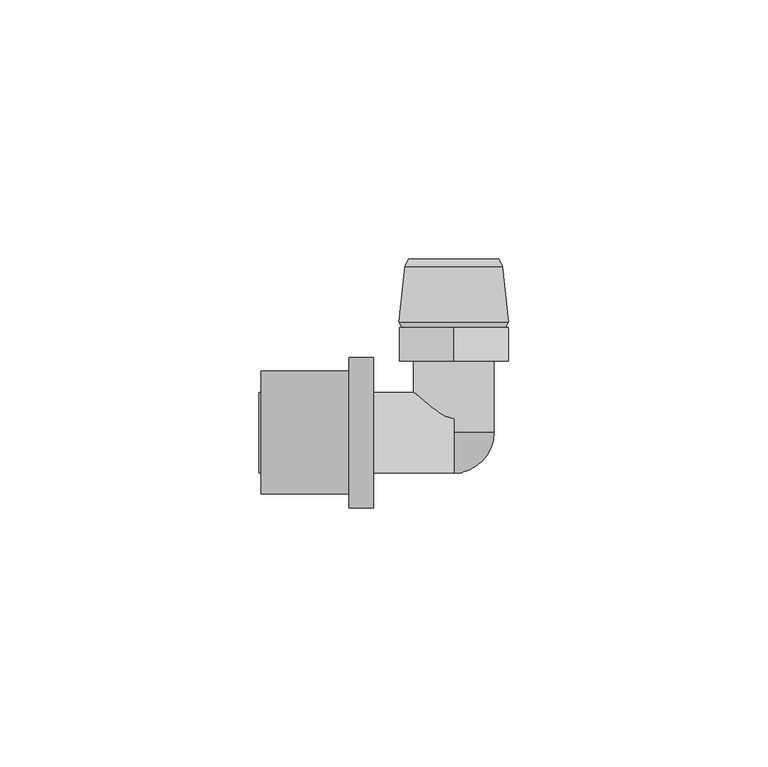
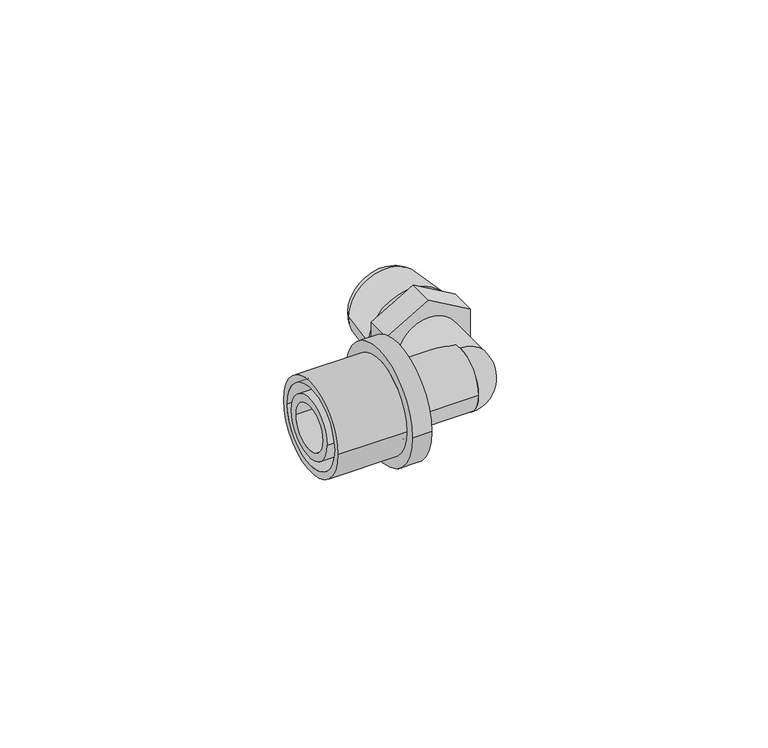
"""IFC4 building model written with IfcOpenShell, lengths in millimetres: pipe fitting geometry, FASTLOC_Elbow with male thread EX+ : FSL A internal AT."""

from ifc_helpers import new_model, si_unit, point, frame, origin, origin_2d, place, context, project, spatial, polyline, circle_curve, ellipse_curve, trimmed, segment, composite_curve, outline, extrude, source, transform, mapped, element, save
from ifc_brep_helpers import plane_surface, cylinder_surface, revolved_surface, advanced_brep


def pipe_fitting_554da5ac(model_context):
    return source(origin(), model_context, "Body", "SolidModel", [
        advanced_brep(
        [(-20.2, -14.5, 0.0), (-20.2, 14.5, 0.0), (-15.5, 14.5, 0.0), (-15.5, -14.5, 0.0), (-37.2, -11.85, 0.0), (-37.2, 11.85, 0.0), (-20.2, 11.85, 0.0), (-20.2, -11.85, 0.0), (-15.5, -10.15, 0.0), (-15.5, 10.15, 0.0), (-37.2, 10.15, 0.0), (-37.2, -10.15, 0.0)],
        [
            (0, 1, circle_curve(frame((-20.2, 0.0, 0.0), z_axis=(1.0, 0.0, 0.0), x_axis=(0.0, 1.0, 0.0)), 14.5)),
            (1, 2),
            (2, 3, circle_curve(frame((-15.5, 0.0, 0.0), z_axis=(-1.0, 0.0, 0.0), x_axis=(0.0, 1.0, 0.0)), 14.5)),
            (3, 0),
            (4, 5, circle_curve(frame((-37.2, 0.0, 0.0), z_axis=(1.0, 0.0, 0.0), x_axis=(0.0, 1.0, 0.0)), 11.85)),
            (5, 6),
            (6, 7, circle_curve(frame((-20.2, 0.0, 0.0), z_axis=(-1.0, 0.0, 0.0), x_axis=(0.0, 1.0, 0.0)), 11.85)),
            (7, 4),
            (8, 9, circle_curve(frame((-15.5, 0.0, 0.0), z_axis=(1.0, 0.0, 0.0), x_axis=(0.0, 1.0, 0.0)), 10.15)),
            (9, 10),
            (10, 11, circle_curve(frame((-37.2, 0.0, 0.0), z_axis=(-1.0, 0.0, 0.0), x_axis=(0.0, 1.0, 0.0)), 10.15)),
            (11, 8),
            (1, 0, circle_curve(frame((-20.2, 0.0, 0.0), z_axis=(1.0, 0.0, 0.0), x_axis=(0.0, -1.0, 0.0)), 14.5)),
            (3, 2, circle_curve(frame((-15.5, 0.0, 0.0), z_axis=(-1.0, 0.0, 0.0), x_axis=(0.0, -1.0, 0.0)), 14.5)),
            (6, 7, circle_curve(frame((-20.2, 0.0, 0.0), z_axis=(1.0, 0.0, 0.0), x_axis=(0.0, -1.0, 0.0)), 11.85)),
            (5, 4, circle_curve(frame((-37.2, 0.0, 0.0), z_axis=(1.0, 0.0, 0.0), x_axis=(0.0, -1.0, 0.0)), 11.85)),
            (10, 11, circle_curve(frame((-37.2, 0.0, 0.0), z_axis=(1.0, 0.0, 0.0), x_axis=(0.0, -1.0, 0.0)), 10.15)),
            (9, 8, circle_curve(frame((-15.5, 0.0, 0.0), z_axis=(1.0, 0.0, 0.0), x_axis=(0.0, -1.0, 0.0)), 10.15)),
        ],
        [
            cylinder_surface(frame((-15.5, 0.0, 0.0), z_axis=(-1.0, 0.0, 0.0), x_axis=(0.0, 1.0, 0.0)), 14.5),
            cylinder_surface(frame((-15.5, 0.0, 0.0), z_axis=(-1.0, 0.0, 0.0), x_axis=(0.0, 1.0, 0.0)), 11.85),
            revolved_surface(polyline([(-37.2, 10.15, 0.0), (-15.5, 10.15, 0.0)]), (-15.5, 0.0, 0.0), (-1.0, 0.0, 0.0)),
            cylinder_surface(frame((-15.5, 0.0, 0.0), z_axis=(-1.0, 0.0, 0.0), x_axis=(0.0, -1.0, 0.0)), 14.5),
            plane_surface(frame((-20.2, 0.0, 0.0), z_axis=(-1.0, 0.0, 0.0), x_axis=(0.0, -1.0, 0.0))),
            cylinder_surface(frame((-15.5, 0.0, 0.0), z_axis=(-1.0, 0.0, 0.0), x_axis=(0.0, -1.0, 0.0)), 11.85),
            plane_surface(frame((-37.2, 0.0, 0.0), z_axis=(-1.0, 0.0, 0.0), x_axis=(0.0, -1.0, 0.0))),
            revolved_surface(polyline([(-37.2, -10.15, 0.0), (-15.5, -10.15, 0.0)]), (-15.5, 0.0, 0.0), (-1.0, 0.0, 0.0)),
            plane_surface(frame((-15.5, 0.0, 0.0), z_axis=(1.0, 0.0, 0.0), x_axis=(0.0, -1.0, 0.0))),
        ],
        [
            (0, [[1, 2, 3, 4]]),
            (1, [[5, 6, 7, 8]]),
            (2, [[9, 10, 11, 12]]),
            (3, [[13, -4, 14, -2]]),
            (4, [[-13, -1], [15, -7]]),
            (5, [[16, -8, -15, -6]]),
            (6, [[-16, -5], [17, -11]]),
            (7, [[18, -12, -17, -10]]),
            (8, [[-14, -3], [-18, -9]]),
        ],
    ),
        advanced_brep(
        [(9.4, 32.0000007, 0.0), (-9.4, 32.0000007, 0.0), (-8.75, 33.5, 0.0), (8.75, 33.5, 0.0), (10.55, 21.3531902, 0.0), (-10.55, 21.3531902, 0.0), (10.0, 20.3, 0.0), (-10.0, 20.3, 0.0), (7.0, 21.7157803, 0.0), (-7.0, 21.7157803, 0.0), (-5.8967197, 20.3, 0.0), (5.8967197, 20.3, 0.0), (7.0, 33.5, 0.0), (-7.0, 33.5, 0.0)],
        [
            (0, 1, circle_curve(frame((0.0, 32.0000007, 0.0), z_axis=(0.0, 1.0, 0.0), x_axis=(-1.0, 0.0, 0.0)), 9.4)),
            (1, 2),
            (2, 3, circle_curve(frame((0.0, 33.5, 0.0), z_axis=(0.0, -1.0, 0.0), x_axis=(-1.0, 0.0, 0.0)), 8.75)),
            (3, 0),
            (4, 5, circle_curve(frame((0.0, 21.3531902, 0.0), z_axis=(0.0, 1.0, 0.0), x_axis=(-1.0, 0.0, 0.0)), 10.55)),
            (5, 1),
            (0, 4),
            (6, 7, circle_curve(frame((0.0, 20.3, 0.0), z_axis=(0.0, 1.0, 0.0), x_axis=(-1.0, 0.0, 0.0)), 10.0)),
            (7, 5),
            (4, 6),
            (8, 9, circle_curve(frame((0.0, 21.7157803, 0.0), z_axis=(0.0, 1.0, 0.0), x_axis=(-1.0, 0.0, 0.0)), 7.0)),
            (9, 10),
            (10, 11, circle_curve(frame((0.0, 20.3, 0.0), z_axis=(0.0, -1.0, 0.0), x_axis=(-1.0, 0.0, 0.0)), 5.8967197)),
            (11, 8),
            (12, 13, circle_curve(frame((0.0, 33.5, 0.0), z_axis=(0.0, 1.0, 0.0), x_axis=(-1.0, 0.0, 0.0)), 7.0)),
            (13, 9),
            (8, 12),
            (2, 3, circle_curve(frame((0.0, 33.5, 0.0), z_axis=(0.0, 1.0, 0.0), x_axis=(1.0, 0.0, 0.0)), 8.75)),
            (12, 13, circle_curve(frame((0.0, 33.5, 0.0), z_axis=(0.0, -1.0, 0.0), x_axis=(1.0, 0.0, 0.0)), 7.0)),
            (1, 0, circle_curve(frame((0.0, 32.0000007, 0.0), z_axis=(0.0, 1.0, 0.0), x_axis=(1.0, 0.0, 0.0)), 9.4)),
            (5, 4, circle_curve(frame((0.0, 21.3531902, 0.0), z_axis=(0.0, 1.0, 0.0), x_axis=(1.0, 0.0, 0.0)), 10.55)),
            (7, 6, circle_curve(frame((0.0, 20.3, 0.0), z_axis=(0.0, 1.0, 0.0), x_axis=(1.0, 0.0, 0.0)), 10.0)),
            (10, 11, circle_curve(frame((0.0, 20.3, 0.0), z_axis=(0.0, 1.0, 0.0), x_axis=(1.0, 0.0, 0.0)), 5.8967197)),
            (9, 8, circle_curve(frame((0.0, 21.7157803, 0.0), z_axis=(0.0, 1.0, 0.0), x_axis=(1.0, 0.0, 0.0)), 7.0)),
        ],
        [
            revolved_surface(polyline([(-8.75, 33.5, 0.0), (-9.4, 32.0000007, 0.0)]), (0.0, 13.8, 0.0), (0.0, -1.0, 0.0)),
            revolved_surface(polyline([(-9.4, 32.0000007, 0.0), (-10.55, 21.3531902, 0.0)]), (0.0, 13.8, 0.0), (0.0, -1.0, 0.0)),
            revolved_surface(polyline([(-10.55, 21.3531902, 0.0), (-10.0, 20.3, 0.0)]), (0.0, 13.8, 0.0), (0.0, -1.0, 0.0)),
            revolved_surface(polyline([(-5.8967197, 20.3, 0.0), (-7.0, 21.7157803, 0.0)]), (0.0, 13.8, 0.0), (0.0, -1.0, 0.0)),
            revolved_surface(polyline([(-7.0, 21.7157803, 0.0), (-7.0, 33.5, 0.0)]), (0.0, 13.8, 0.0), (0.0, -1.0, 0.0)),
            plane_surface(frame((0.0, 33.5, 0.0), z_axis=(0.0, 1.0, 0.0), x_axis=(1.0, 0.0, 0.0))),
            revolved_surface(polyline([(8.75, 33.5, 0.0), (9.4, 32.0000007, 0.0)]), (0.0, 13.8, 0.0), (0.0, -1.0, 0.0)),
            revolved_surface(polyline([(9.4, 32.0000007, 0.0), (10.55, 21.3531902, 0.0)]), (0.0, 13.8, 0.0), (0.0, -1.0, 0.0)),
            revolved_surface(polyline([(10.55, 21.3531902, 0.0), (10.0, 20.3, 0.0)]), (0.0, 13.8, 0.0), (0.0, -1.0, 0.0)),
            plane_surface(frame((0.0, 20.3, 0.0), z_axis=(0.0, -1.0, 0.0), x_axis=(1.0, 0.0, 0.0))),
            revolved_surface(polyline([(5.8967197, 20.3, 0.0), (7.0, 21.7157803, 0.0)]), (0.0, 13.8, 0.0), (0.0, -1.0, 0.0)),
            revolved_surface(polyline([(7.0, 21.7157803, 0.0), (7.0, 33.5, 0.0)]), (0.0, 13.8, 0.0), (0.0, -1.0, 0.0)),
        ],
        [
            (0, [[1, 2, 3, 4]]),
            (1, [[5, 6, -1, 7]]),
            (2, [[8, 9, -5, 10]]),
            (3, [[11, 12, 13, 14]]),
            (4, [[15, 16, -11, 17]]),
            (5, [[18, -3], [19, -15]]),
            (6, [[20, -4, -18, -2]]),
            (7, [[21, -7, -20, -6]]),
            (8, [[22, -10, -21, -9]]),
            (9, [[-22, -8], [23, -13]]),
            (10, [[24, -14, -23, -12]]),
            (11, [[-19, -17, -24, -16]]),
        ],
    ),
        advanced_brep(
        [(-20.2, 7.75, 0.0), (-20.2, -7.75, 0.0), (-37.6, -7.75, 0.0), (-37.6, 7.75, 0.0), (-17.5, 8.8, 0.0), (-17.5, -8.8, 0.0), (-20.2, -8.8, 0.0), (-20.2, 8.8, 0.0), (0.0, 7.75, 0.0), (0.0, -7.75, 0.0), (-17.5, -7.75, 0.0), (-17.5, 7.75, 0.0), (-37.6, 5.75, 0.0), (-37.6, -5.75, 0.0), (0.0, -5.75, 0.0), (0.0, 5.75, 0.0)],
        [
            (0, 1, circle_curve(frame((-20.2, 0.0, 0.0), z_axis=(-1.0, 0.0, 0.0), x_axis=(0.0, -1.0, 0.0)), 7.75)),
            (1, 2),
            (2, 3, circle_curve(frame((-37.6, 0.0, 0.0), z_axis=(1.0, 0.0, 0.0), x_axis=(0.0, -1.0, 0.0)), 7.75)),
            (3, 0),
            (4, 5, circle_curve(frame((-17.5, 0.0, 0.0), z_axis=(-1.0, 0.0, 0.0), x_axis=(0.0, -1.0, 0.0)), 8.8)),
            (5, 6),
            (6, 7, circle_curve(frame((-20.2, 0.0, 0.0), z_axis=(1.0, 0.0, 0.0), x_axis=(0.0, -1.0, 0.0)), 8.8)),
            (7, 4),
            (8, 9, circle_curve(frame((0.0, 0.0, 0.0), z_axis=(-1.0, 0.0, 0.0), x_axis=(0.0, -1.0, 0.0)), 7.75)),
            (9, 10),
            (10, 11, circle_curve(frame((-17.5, 0.0, 0.0), z_axis=(1.0, 0.0, 0.0), x_axis=(0.0, -1.0, 0.0)), 7.75)),
            (11, 8),
            (12, 13, circle_curve(frame((-37.6, 0.0, 0.0), z_axis=(-1.0, 0.0, 0.0), x_axis=(0.0, -1.0, 0.0)), 5.75)),
            (13, 14),
            (14, 15, circle_curve(frame((0.0, 0.0, 0.0), z_axis=(1.0, 0.0, 0.0), x_axis=(0.0, -1.0, 0.0)), 5.75)),
            (15, 12),
            (2, 3, circle_curve(frame((-37.6, 0.0, 0.0), z_axis=(-1.0, 0.0, 0.0), x_axis=(0.0, 1.0, 0.0)), 7.75)),
            (12, 13, circle_curve(frame((-37.6, 0.0, 0.0), z_axis=(1.0, 0.0, 0.0), x_axis=(0.0, 1.0, 0.0)), 5.75)),
            (1, 0, circle_curve(frame((-20.2, 0.0, 0.0), z_axis=(-1.0, 0.0, 0.0), x_axis=(0.0, 1.0, 0.0)), 7.75)),
            (6, 7, circle_curve(frame((-20.2, 0.0, 0.0), z_axis=(-1.0, 0.0, 0.0), x_axis=(0.0, 1.0, 0.0)), 8.8)),
            (5, 4, circle_curve(frame((-17.5, 0.0, 0.0), z_axis=(-1.0, 0.0, 0.0), x_axis=(0.0, 1.0, 0.0)), 8.8)),
            (10, 11, circle_curve(frame((-17.5, 0.0, 0.0), z_axis=(-1.0, 0.0, 0.0), x_axis=(0.0, 1.0, 0.0)), 7.75)),
            (9, 8, circle_curve(frame((0.0, 0.0, 0.0), z_axis=(-1.0, 0.0, 0.0), x_axis=(0.0, 1.0, 0.0)), 7.75)),
            (14, 15, circle_curve(frame((0.0, 0.0, 0.0), z_axis=(-1.0, 0.0, 0.0), x_axis=(0.0, 1.0, 0.0)), 5.75)),
        ],
        [
            cylinder_surface(frame((0.0, 0.0, 0.0), z_axis=(1.0, 0.0, 0.0), x_axis=(0.0, -1.0, 0.0)), 7.75),
            cylinder_surface(frame((0.0, 0.0, 0.0), z_axis=(1.0, 0.0, 0.0), x_axis=(0.0, -1.0, 0.0)), 8.8),
            revolved_surface(polyline([(0.0, -5.75, 0.0), (-37.6, -5.75, 0.0)]), (0.0, 0.0, 0.0), (1.0, 0.0, 0.0)),
            plane_surface(frame((-37.6, 0.0, 0.0), z_axis=(-1.0, 0.0, 0.0), x_axis=(0.0, 1.0, 0.0))),
            cylinder_surface(frame((0.0, 0.0, 0.0), z_axis=(1.0, 0.0, 0.0), x_axis=(0.0, 1.0, 0.0)), 7.75),
            plane_surface(frame((-20.2, 0.0, 0.0), z_axis=(-1.0, 0.0, 0.0), x_axis=(0.0, 1.0, 0.0))),
            cylinder_surface(frame((0.0, 0.0, 0.0), z_axis=(1.0, 0.0, 0.0), x_axis=(0.0, 1.0, 0.0)), 8.8),
            plane_surface(frame((-17.5, 0.0, 0.0), z_axis=(1.0, 0.0, 0.0), x_axis=(0.0, 1.0, 0.0))),
            plane_surface(frame((0.0, 0.0, 0.0), z_axis=(1.0, 0.0, 0.0), x_axis=(0.0, 1.0, 0.0))),
            revolved_surface(polyline([(0.0, 5.75, 0.0), (-37.6, 5.75, 0.0)]), (0.0, 0.0, 0.0), (1.0, 0.0, 0.0)),
        ],
        [
            (0, [[1, 2, 3, 4]]),
            (1, [[5, 6, 7, 8]]),
            (0, [[9, 10, 11, 12]]),
            (2, [[13, 14, 15, 16]]),
            (3, [[17, -3], [18, -13]]),
            (4, [[19, -4, -17, -2]]),
            (5, [[20, -7], [-19, -1]]),
            (6, [[21, -8, -20, -6]]),
            (7, [[-21, -5], [22, -11]]),
            (4, [[23, -12, -22, -10]]),
            (8, [[-23, -9], [24, -15]]),
            (9, [[-18, -16, -24, -14]]),
        ],
    ),
        advanced_brep(
        [(0.0, -7.8, 0.0), (0.0, 0.0, 7.8), (0.0, 0.0, 5.75), (0.0, -5.75, 0.0), (0.0, 0.0, -5.75), (0.0, 0.0, -7.8)],
        [
            (0, 1, circle_curve(frame((0.0, 0.0, 0.0), z_axis=(-1.0, 0.0, 0.0), x_axis=(0.0, 0.0, 1.0)), 7.8)),
            (1, 2),
            (2, 3, circle_curve(frame((0.0, 0.0, 0.0), z_axis=(1.0, 0.0, 0.0), x_axis=(0.0, 0.0, 1.0)), 5.75)),
            (3, 0),
            (3, 4, circle_curve(frame((0.0, 0.0, 0.0), z_axis=(1.0, 0.0, 0.0), x_axis=(0.0, 0.0, -1.0)), 5.75)),
            (4, 5),
            (5, 0, circle_curve(frame((0.0, 0.0, 0.0), z_axis=(-1.0, 0.0, 0.0), x_axis=(0.0, 0.0, -1.0)), 7.8)),
            (5, 1, circle_curve(frame((0.0, 0.0, 0.0), z_axis=(0.0, -1.0, 0.0), x_axis=(0.0, 0.0, 1.0)), 7.8)),
            (4, 2, circle_curve(frame((0.0, 0.0, 0.0), z_axis=(0.0, -1.0, 0.0), x_axis=(0.0, 0.0, 1.0)), 5.75)),
        ],
        [
            plane_surface(frame((0.0, 0.0, 0.0), z_axis=(-1.0, 0.0, 0.0), x_axis=(0.0, 0.0, 1.0))),
            plane_surface(frame((0.0, 0.0, 0.0), z_axis=(-1.0, 0.0, 0.0), x_axis=(0.0, 0.0, -1.0))),
            revolved_surface(trimmed(ellipse_curve(frame((0.0, 0.0, 0.0), z_axis=(-1.0, 0.0, 0.0), x_axis=(0.0, 0.0, 1.0)), 7.8, 7.8), [point((0.0, -7.8, 0.0))], [point((0.0, 0.0, 7.8))], True, "CARTESIAN"), (0.0, 0.0, 0.0), (0.0, 1.0, 0.0)),
            plane_surface(frame((0.0, 0.0, 0.0), z_axis=(0.0, 1.0, 0.0), x_axis=(0.0, 0.0, 1.0))),
            revolved_surface(trimmed(ellipse_curve(frame((0.0, 0.0, 0.0), z_axis=(1.0, 0.0, 0.0), x_axis=(0.0, 0.0, 1.0)), 5.75, 5.75), [point((0.0, 0.0, 5.75))], [point((0.0, -5.75, 0.0))], True, "CARTESIAN"), (0.0, 0.0, 0.0), (0.0, 1.0, 0.0)),
        ],
        [
            (0, [[1, 2, 3, 4]]),
            (1, [[5, 6, 7, -4]]),
            (2, [[8, -1, -7]]),
            (3, [[9, -2, -8, -6]]),
            (4, [[-3, -9, -5]]),
        ],
    ),
        extrude(outline(polyline([(-6.0621778, 10.5), (6.0621778, 10.5), (12.1243557, 0.0), (6.0621778, -10.5), (-6.0621778, -10.5), (-12.1243557, 0.0), (-6.0621778, 10.5)])), frame((0.0, 13.8, 0.0), z_axis=(0.0, 1.0, 0.0), x_axis=(0.0, 0.0, 1.0)), (0.0, 0.0, 1.0), 6.5),
        extrude(outline(composite_curve([segment(trimmed(circle_curve(origin_2d(), 7.75), [point((0.0, -7.75))], [point((0.0, 7.75))], False, "CARTESIAN"), True, "CONTINUOUS"), segment(trimmed(circle_curve(origin_2d(), 7.75), [point((0.0, 7.75))], [point((0.0, -7.75))], False, "CARTESIAN"), True, "CONTINUOUS")], self_intersect=False), holes=[composite_curve([segment(trimmed(circle_curve(origin_2d(), 5.75), [point((0.0, -5.75))], [point((0.0, 5.75))], True, "CARTESIAN"), True, "CONTINUOUS"), segment(trimmed(circle_curve(origin_2d(), 5.75), [point((0.0, 5.75))], [point((0.0, -5.75))], True, "CARTESIAN"), True, "CONTINUOUS")], self_intersect=False)]), frame((0.0, 0.0, 0.0), z_axis=(0.0, 1.0, 0.0), x_axis=(0.0, 0.0, 1.0)), (0.0, 0.0, 1.0), 13.8),
    ])


if __name__ == "__main__":
    model = new_model("IFC4")
    model_context = context("Model", 3, world=origin())
    ifc_project = project(units=[si_unit("LENGTHUNIT", "METRE", prefix="MILLI")], contexts=[model_context])
    site = spatial("IfcSite", under=ifc_project)
    building = spatial("IfcBuilding", under=site)
    placement = place(None, origin())
    pipe_fitting_shape = pipe_fitting_554da5ac(model_context)
    element("IfcPipeFitting", 1, ObjectType="FASTLOC_Elbow with male thread EX+ : FSL A internal AT", at=placement, inside=building, context=model_context, shape_type="MappedRepresentation", body=[
        mapped(pipe_fitting_shape, transform((0.0, 0.0, 0.0), x_axis=(1.0, 0.0, 0.0), y_axis=(0.0, 1.0, 0.0), z_axis=(0.0, 0.0, 1.0))),
    ])
    save(model, "model.ifc")
